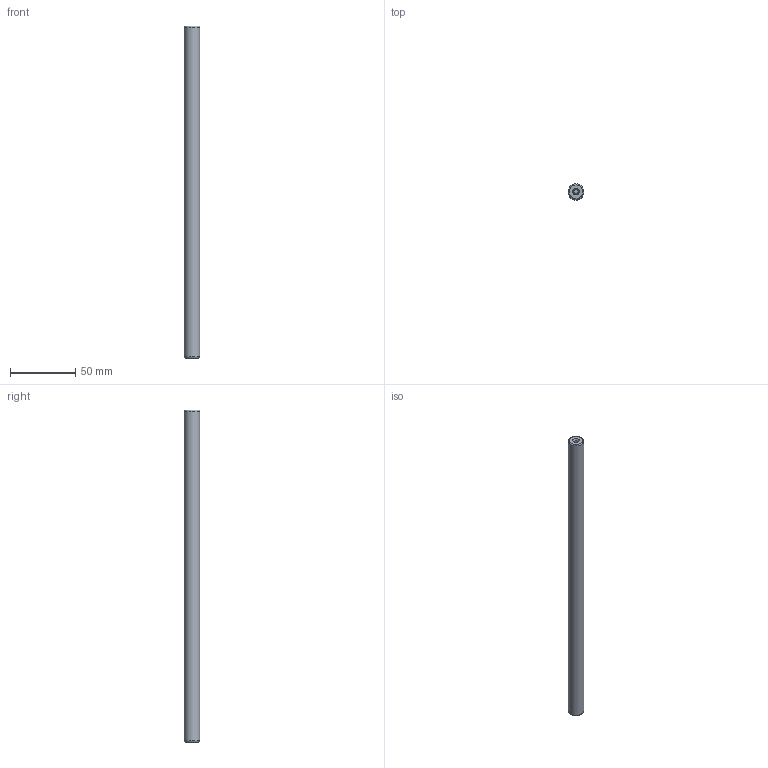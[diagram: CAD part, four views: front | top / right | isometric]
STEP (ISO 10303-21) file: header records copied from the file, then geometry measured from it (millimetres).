
FILE_DESCRIPTION(/* description */ (''),/* implementation_level */ '2;1');
FILE_NAME(/* name */ 'LM2070-160-Rod.stp',/* time_stamp */ '2017-09-06T14:10:33+02:00',/* author */ ('DR. FRITZ FAULHABER GmbH & Co. KG'),/* organization */ ('DR. FRITZ FAULHABER GmbH & Co. KG'),/* preprocessor_version */ 'ST-DEVELOPER v16',/* originating_system */ 'SIEMENS PLM Software NX 10.0',/* authorisation */ '');
FILE_SCHEMA (('AUTOMOTIVE_DESIGN { 1 0 10303 214 3 1 1 1 }'));
Length unit declared in the file: millimetre
Products named in the file (1): Alle_Motoren
Bounding box: 12 x 12 x 254 mm (x, y, z)
Volume: 28564.6 mm3; surface area: 9932.8 mm2
Topology: 1 solids, 1 shells, 11 faces, 20 edges, 13 vertices
Faces by surface type: plane 4, cylinder 3, cone 2, torus 2
Full cylindrical faces by diameter (mm): 3.3 x2, 12 x1
Entity records: 238 total; most frequent: DIRECTION 44, CARTESIAN_POINT 32, AXIS2_PLACEMENT_3D 22, EDGE_LOOP 20, ORIENTED_EDGE 20, FACE_BOUND 18, ADVANCED_FACE 11, VERTEX_POINT 10
